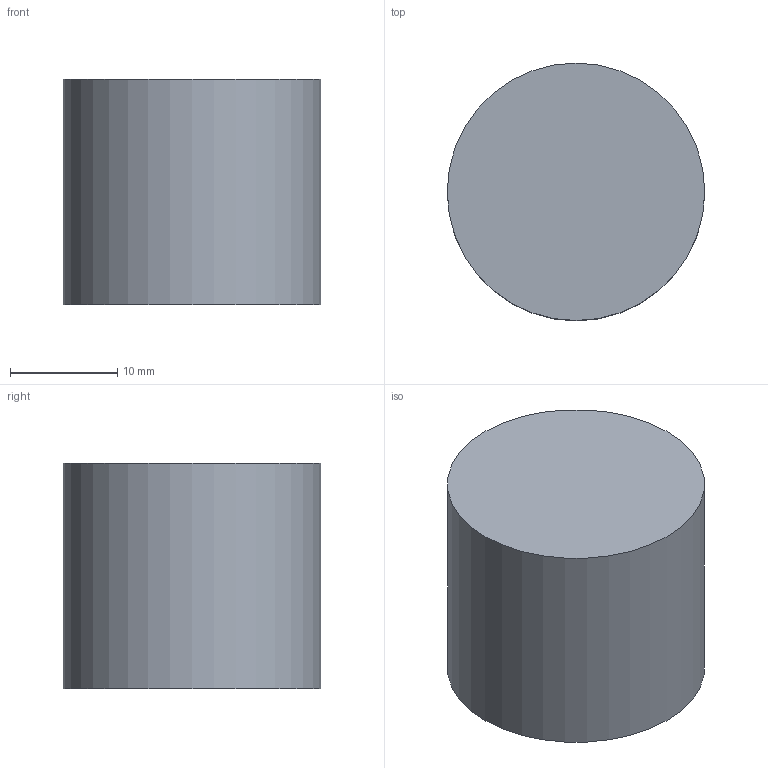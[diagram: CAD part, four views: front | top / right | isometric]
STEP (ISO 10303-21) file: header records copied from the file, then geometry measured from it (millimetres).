
FILE_DESCRIPTION(('Open CASCADE Model'),'2;1');
FILE_NAME('Open CASCADE Shape Model','2026-10-04T02:31:45',('Author'),( 'Open CASCADE'),'Open CASCADE STEP processor 8.0','Open CASCADE 8.0' ,'Unknown');
FILE_SCHEMA(('AUTOMOTIVE_DESIGN { 1 0 10303 214 1 1 1 1 }'));
Length unit declared in the file: millimetre
Products named in the file (1): Open CASCADE STEP translator 8.0 376
Bounding box: 24 x 24 x 21 mm (x, y, z)
Volume: 9500.2 mm3; surface area: 2488.1 mm2
Topology: 1 solids, 1 shells, 3 faces, 3 edges, 2 vertices
Faces by surface type: plane 2, cylinder 1
Full cylindrical faces by diameter (mm): 24 x1
Entity records: 108 total; most frequent: DIRECTION 19, CARTESIAN_POINT 15, AXIS2_PLACEMENT_3D 6, ORIENTED_EDGE 6, PCURVE 6, DEFINITIONAL_REPRESENTATION 6, LINE 5, VECTOR 5
